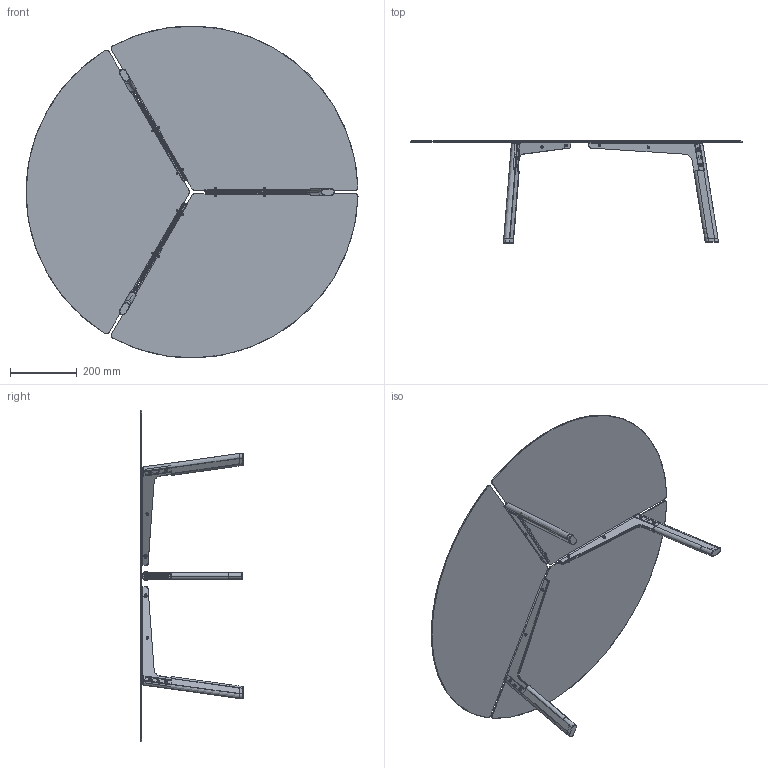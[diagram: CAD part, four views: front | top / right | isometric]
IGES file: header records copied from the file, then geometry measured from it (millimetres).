
Start section: SolidWorks IGES file using analytic representation for surfaces
Global section: file name: \\utenti\Dati Utenti\Tecnico\DC\2D - 3D per sito\3D\DeCastelli-3D-Placas 100.igs; native system: SolidWorks 2022; preprocessor: SolidWorks 2022; author: Simonep; date: 240729.120632; units: millimetre
Bounding box: 996.26 x 306.23 x 995.8 mm (x, y, z)
Surface area: 1818747 mm2 (no closed solid volume)
Topology: 0 solids, 0 shells, 326 faces, 6534 edges, 6511 vertices
Faces by surface type: bspline 191, revolution 135
